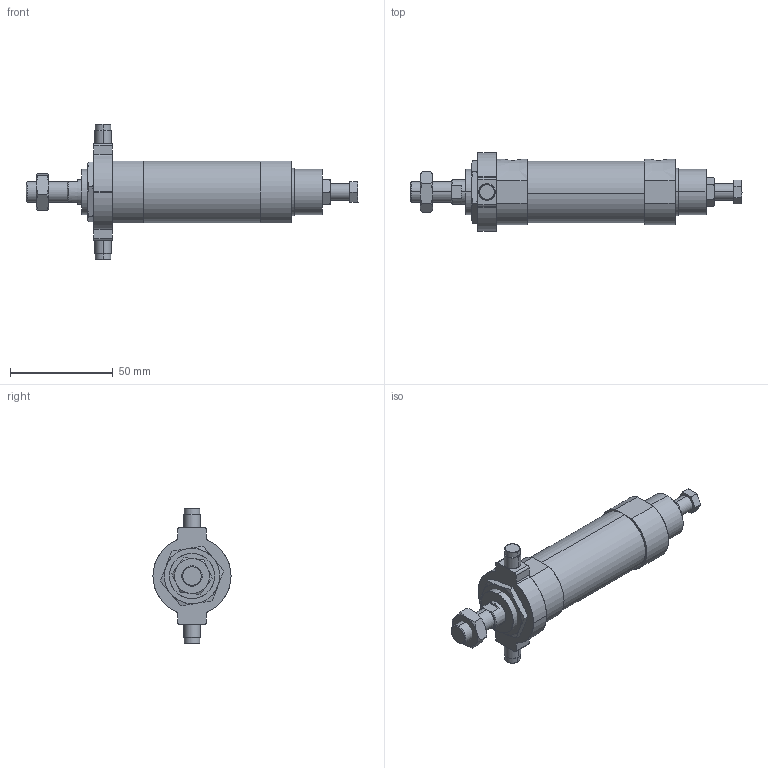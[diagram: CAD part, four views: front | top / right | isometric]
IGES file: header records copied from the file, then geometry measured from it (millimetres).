
Start section: SolidWorks IGES file using analytic representation for surfaces
Global section: file name: C:\Users\Toshiba\Desktop\JGA2-25-25-T.IGS; native system: SolidWorks 2014; preprocessor: SolidWorks 2014; author: Toshiba; date: 160420.130702; units: millimetre
Bounding box: 161.5 x 38 x 66 mm (x, y, z)
Surface area: 23633.9 mm2 (no closed solid volume)
Topology: 0 solids, 0 shells, 163 faces, 2652 edges, 2648 vertices
Faces by surface type: bspline 98, revolution 65
